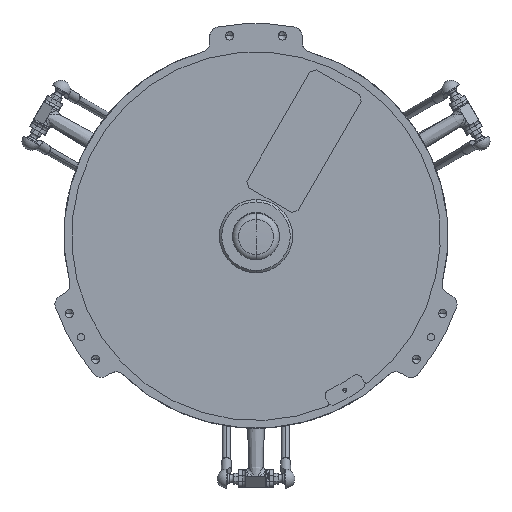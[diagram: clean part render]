
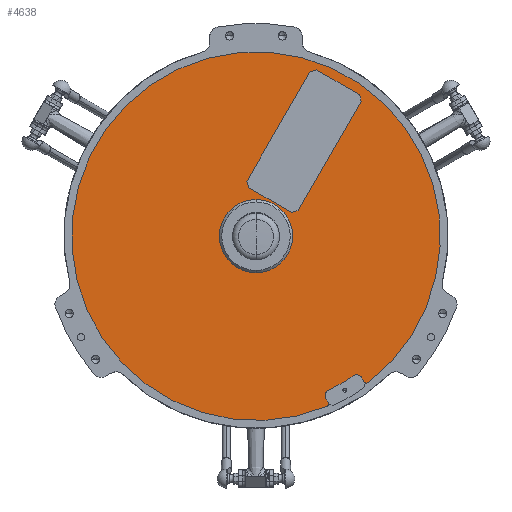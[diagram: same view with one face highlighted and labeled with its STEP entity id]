
A CAD part, top view. The second image highlights one B-rep face of the part: STEP entity #4638.
In plain terms, the highlighted planar face has unit normal (0, 0, 1).
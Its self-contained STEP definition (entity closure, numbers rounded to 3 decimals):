
#2066=FACE_BOUND('',#7974,.T.);
#2067=FACE_BOUND('',#7975,.T.);
#2068=FACE_BOUND('',#7976,.T.);
#2617=CIRCLE('',#24673,5.);
#2620=CIRCLE('',#24678,10.);
#2622=CIRCLE('',#24681,288.);
#2624=CIRCLE('',#24684,10.);
#2626=CIRCLE('',#24688,5.);
#3113=CIRCLE('',#25438,62.);
#3114=CIRCLE('',#25440,312.);
#3115=CIRCLE('',#25441,62.);
#4638=ADVANCED_FACE('',(#2066,#2067,#2068),#5716,.T.);
#5716=PLANE('',#25442);
#7974=EDGE_LOOP('',(#11408,#11409,#11410,#11411,#11412,#11413,#11414,#11415));
#7975=EDGE_LOOP('',(#11416,#11417,#11418,#11419,#11420,#11421,#11422,#11423));
#7976=EDGE_LOOP('',(#11424,#11425));
#11408=ORIENTED_EDGE('',*,*,#19924,.F.);
#11409=ORIENTED_EDGE('',*,*,#19925,.F.);
#11410=ORIENTED_EDGE('',*,*,#19926,.F.);
#11411=ORIENTED_EDGE('',*,*,#19927,.F.);
#11412=ORIENTED_EDGE('',*,*,#19928,.F.);
#11413=ORIENTED_EDGE('',*,*,#19929,.F.);
#11414=ORIENTED_EDGE('',*,*,#19930,.F.);
#11415=ORIENTED_EDGE('',*,*,#19931,.F.);
#11416=ORIENTED_EDGE('',*,*,#19932,.T.);
#11417=ORIENTED_EDGE('',*,*,#18718,.T.);
#11418=ORIENTED_EDGE('',*,*,#18723,.F.);
#11419=ORIENTED_EDGE('',*,*,#18726,.T.);
#11420=ORIENTED_EDGE('',*,*,#18729,.T.);
#11421=ORIENTED_EDGE('',*,*,#18732,.T.);
#11422=ORIENTED_EDGE('',*,*,#18735,.F.);
#11423=ORIENTED_EDGE('',*,*,#18739,.T.);
#11424=ORIENTED_EDGE('',*,*,#19923,.F.);
#11425=ORIENTED_EDGE('',*,*,#19933,.F.);
#16428=VERTEX_POINT('',#33981);
#16429=VERTEX_POINT('',#33982);
#16432=VERTEX_POINT('',#33991);
#16434=VERTEX_POINT('',#33997);
#16436=VERTEX_POINT('',#34003);
#16438=VERTEX_POINT('',#34009);
#16440=VERTEX_POINT('',#34015);
#16442=VERTEX_POINT('',#34021);
#17139=VERTEX_POINT('',#55091);
#17140=VERTEX_POINT('',#55093);
#17141=VERTEX_POINT('',#55097);
#17142=VERTEX_POINT('',#55098);
#17143=VERTEX_POINT('',#55100);
#17144=VERTEX_POINT('',#55102);
#17145=VERTEX_POINT('',#55104);
#17146=VERTEX_POINT('',#55106);
#17147=VERTEX_POINT('',#55108);
#17148=VERTEX_POINT('',#55110);
#18718=EDGE_CURVE('',#16428,#16429,#2617,.T.);
#18723=EDGE_CURVE('',#16432,#16429,#22405,.T.);
#18726=EDGE_CURVE('',#16432,#16434,#2620,.T.);
#18729=EDGE_CURVE('',#16434,#16436,#2622,.T.);
#18732=EDGE_CURVE('',#16436,#16438,#2624,.T.);
#18735=EDGE_CURVE('',#16440,#16438,#22411,.T.);
#18739=EDGE_CURVE('',#16440,#16442,#2626,.T.);
#19923=EDGE_CURVE('',#17140,#17139,#3113,.T.);
#19924=EDGE_CURVE('',#17141,#17142,#22644,.T.);
#19925=EDGE_CURVE('',#17143,#17141,#22645,.T.);
#19926=EDGE_CURVE('',#17144,#17143,#22646,.T.);
#19927=EDGE_CURVE('',#17145,#17144,#22647,.T.);
#19928=EDGE_CURVE('',#17146,#17145,#22648,.T.);
#19929=EDGE_CURVE('',#17147,#17146,#22649,.T.);
#19930=EDGE_CURVE('',#17148,#17147,#22650,.T.);
#19931=EDGE_CURVE('',#17142,#17148,#22651,.T.);
#19932=EDGE_CURVE('',#16442,#16428,#3114,.T.);
#19933=EDGE_CURVE('',#17139,#17140,#3115,.T.);
#22405=LINE('',#33990,#23541);
#22411=LINE('',#34014,#23547);
#22644=LINE('',#55096,#23780);
#22645=LINE('',#55099,#23781);
#22646=LINE('',#55101,#23782);
#22647=LINE('',#55103,#23783);
#22648=LINE('',#55105,#23784);
#22649=LINE('',#55107,#23785);
#22650=LINE('',#55109,#23786);
#22651=LINE('',#55111,#23787);
#23541=VECTOR('',#27410,1.);
#23547=VECTOR('',#27436,1.);
#23780=VECTOR('',#29175,1.);
#23781=VECTOR('',#29176,1.);
#23782=VECTOR('',#29177,1.);
#23783=VECTOR('',#29178,1.);
#23784=VECTOR('',#29179,1.);
#23785=VECTOR('',#29180,1.);
#23786=VECTOR('',#29181,1.);
#23787=VECTOR('',#29182,1.);
#24673=AXIS2_PLACEMENT_3D('',#33980,#27400,#27401);
#24678=AXIS2_PLACEMENT_3D('',#33996,#27415,#27416);
#24681=AXIS2_PLACEMENT_3D('',#34002,#27422,#27423);
#24684=AXIS2_PLACEMENT_3D('',#34008,#27429,#27430);
#24688=AXIS2_PLACEMENT_3D('',#34023,#27442,#27443);
#25438=AXIS2_PLACEMENT_3D('',#55094,#29171,#29172);
#25440=AXIS2_PLACEMENT_3D('',#55112,#29183,#29184);
#25441=AXIS2_PLACEMENT_3D('',#55113,#29185,#29186);
#25442=AXIS2_PLACEMENT_3D('',#55114,#29187,#29188);
#27400=DIRECTION('',(0.,0.,1.));
#27401=DIRECTION('',(0.383,-0.924,0.));
#27410=DIRECTION('',(0.5,-0.866,0.));
#27415=DIRECTION('',(0.,0.,-1.));
#27416=DIRECTION('',(-0.866,-0.5,0.));
#27422=DIRECTION('',(0.,0.,1.));
#27423=DIRECTION('',(0.426,-0.905,0.));
#27429=DIRECTION('',(0.,0.,-1.));
#27430=DIRECTION('',(-0.571,0.821,0.));
#27436=DIRECTION('',(-0.5,0.866,0.));
#27442=DIRECTION('',(0.,0.,1.));
#27443=DIRECTION('',(-0.866,-0.5,0.));
#29171=DIRECTION('',(0.,0.,1.));
#29172=DIRECTION('',(0.,1.,0.));
#29175=DIRECTION('',(-0.5,-0.866,0.));
#29176=DIRECTION('',(-0.966,-0.259,0.));
#29177=DIRECTION('',(-0.866,0.5,0.));
#29178=DIRECTION('',(-0.259,0.966,0.));
#29179=DIRECTION('',(0.5,0.866,0.));
#29180=DIRECTION('',(0.966,0.259,0.));
#29181=DIRECTION('',(0.866,-0.5,0.));
#29182=DIRECTION('',(0.259,-0.966,0.));
#29183=DIRECTION('',(0.,0.,1.));
#29184=DIRECTION('',(0.609,-0.793,0.));
#29185=DIRECTION('',(0.,0.,1.));
#29186=DIRECTION('',(0.,-1.,0.));
#29187=DIRECTION('',(0.,0.,1.));
#29188=DIRECTION('',(-1.,0.,0.));
#33980=CARTESIAN_POINT('',(117.55,-283.603,4.));
#33981=CARTESIAN_POINT('',(119.465,-288.222,4.));
#33982=CARTESIAN_POINT('',(121.881,-281.103,4.));
#33990=CARTESIAN_POINT('',(118.164,-274.666,4.));
#33991=CARTESIAN_POINT('',(118.164,-274.666,4.));
#33996=CARTESIAN_POINT('',(126.824,-269.666,4.));
#33997=CARTESIAN_POINT('',(122.568,-260.617,4.));
#34002=CARTESIAN_POINT('',(0.,0.,4.));
#34003=CARTESIAN_POINT('',(164.416,-236.456,4.));
#34008=CARTESIAN_POINT('',(170.125,-244.666,4.));
#34009=CARTESIAN_POINT('',(178.786,-239.666,4.));
#34014=CARTESIAN_POINT('',(182.502,-246.103,4.));
#34015=CARTESIAN_POINT('',(182.502,-246.103,4.));
#34021=CARTESIAN_POINT('',(189.875,-247.571,4.));
#34023=CARTESIAN_POINT('',(186.833,-243.603,4.));
#55091=CARTESIAN_POINT('',(0.,-62.,4.));
#55093=CARTESIAN_POINT('',(0.,62.,4.));
#55094=CARTESIAN_POINT('',(0.,0.,4.));
#55096=CARTESIAN_POINT('',(-51.962,30.,4.));
#55097=CARTESIAN_POINT('',(91.538,278.549,4.));
#55098=CARTESIAN_POINT('',(-15.462,93.22,4.));
#55099=CARTESIAN_POINT('',(-63.505,237.005,4.));
#55100=CARTESIAN_POINT('',(102.467,281.477,4.));
#55101=CARTESIAN_POINT('',(147.5,255.477,4.));
#55102=CARTESIAN_POINT('',(175.213,239.477,4.));
#55103=CARTESIAN_POINT('',(223.345,59.845,4.));
#55104=CARTESIAN_POINT('',(178.141,228.549,4.));
#55105=CARTESIAN_POINT('',(34.641,-20.,4.));
#55106=CARTESIAN_POINT('',(71.141,43.22,4.));
#55107=CARTESIAN_POINT('',(-6.039,22.539,4.));
#55108=CARTESIAN_POINT('',(60.213,40.292,4.));
#55109=CARTESIAN_POINT('',(32.5,56.292,4.));
#55110=CARTESIAN_POINT('',(-12.533,82.292,4.));
#55111=CARTESIAN_POINT('',(8.879,2.379,4.));
#55112=CARTESIAN_POINT('',(0.,0.,4.));
#55113=CARTESIAN_POINT('',(0.,0.,4.));
#55114=CARTESIAN_POINT('',(0.,0.,4.));
